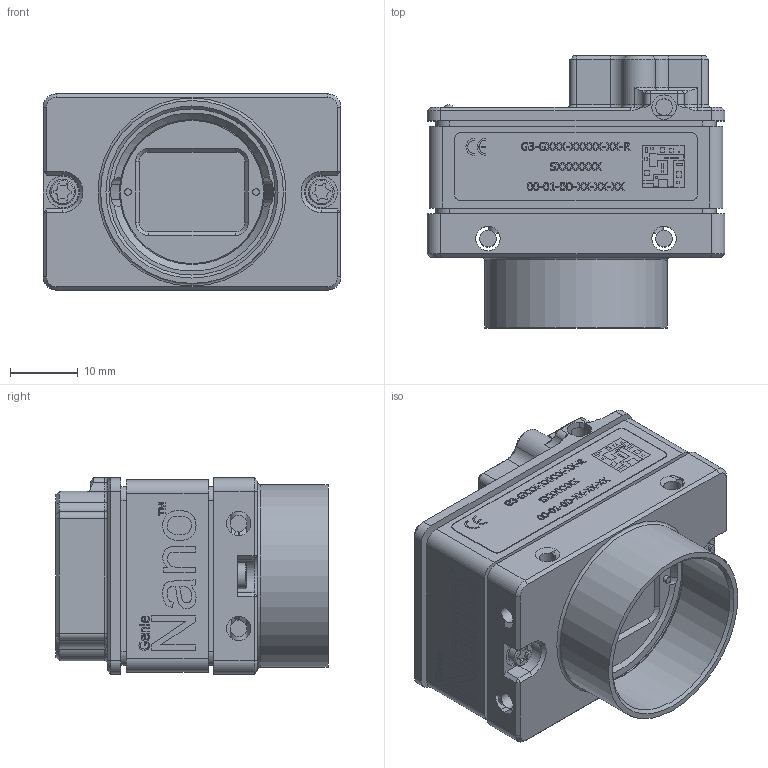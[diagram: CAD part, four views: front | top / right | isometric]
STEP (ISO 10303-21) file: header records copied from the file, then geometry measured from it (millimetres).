
FILE_DESCRIPTION(/* description */ (''),/* implementation_level */ '2;1');
FILE_NAME(/* name */ 'C:\Users\sduhra\Desktop\cad MODELS\NOVA CAMERA ASSEMBLY-SIZE 5 (C-MOUNT) PY 2.0.stp',/* time_stamp */ '2018-07-10T15:03:59-04:00',/* author */ ('sduhra'),/* organization */ (''),/* preprocessor_version */ 'ST-DEVELOPER v17',/* originating_system */ 'Autodesk Inventor 2018',/* authorisation */ '');
FILE_SCHEMA (('AUTOMOTIVE_DESIGN { 1 0 10303 214 3 1 1 }'));
Products named in the file (1): NOVA CAMERA ASSEMBLY_ir-2.0py-cmnt
Bounding box: 44 x 40.18 x 29 mm (x, y, z)
Volume: 25265.3 mm3; surface area: 15423.6 mm2
Topology: 1 solids, 1 shells, 2676 faces, 7272 edges, 4729 vertices
Faces by surface type: plane 1682, cylinder 433, bspline 417, cone 98, torus 38, sphere 8
Full cylindrical faces by diameter (mm): 0.5 x8, 1.2 x2, 1.567 x4, 1.7 x1, 2 x2, 2.459 x9, 2.6 x2, 3.8 x2, 4.7 x2, 24.536 x1, 25.654 x1, 27 x1
Entity records: 92540 total; most frequent: CARTESIAN_POINT 24837, ORIENTED_EDGE 14514, DIRECTION 11851, EDGE_CURVE 7257, LINE 5161, VECTOR 5161, VERTEX_POINT 4729, AXIS2_PLACEMENT_3D 3345
